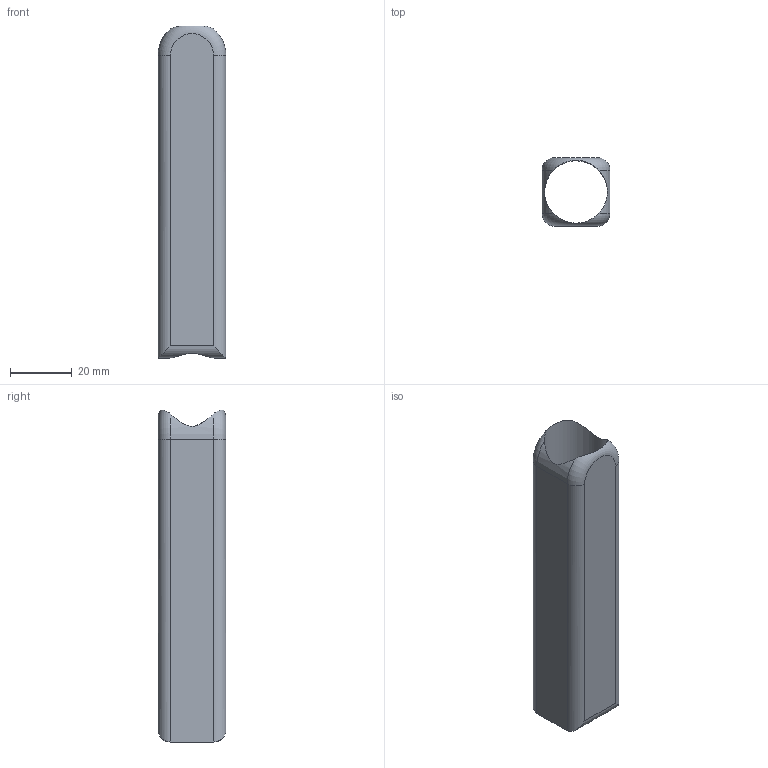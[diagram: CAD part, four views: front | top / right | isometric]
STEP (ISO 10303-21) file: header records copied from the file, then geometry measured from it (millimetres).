
FILE_DESCRIPTION(/* description */ (''),/* implementation_level */ '2;1');
FILE_NAME(/* name */ 'C:/Users/Owner/Desktop/K-CAD Songbird PM4 Centerfire/STEP/Barrels/Barrel Type 1/Barrel Type 1 .8 inch ID.step',/* time_stamp */ '2020-12-05T21:46:03-05:00',/* author */ (''),/* organization */ (''),/* preprocessor_version */ 'ST-DEVELOPER v18.1',/* originating_system */ 'Autodesk Translation Framework v9.3.0.1241',/* authorisation */ '');
FILE_SCHEMA (('AUTOMOTIVE_DESIGN { 1 0 10303 214 3 1 1 }'));
Length unit declared in the file: inch
Products named in the file (1): Barrel Type 1 .8 inch ID
Bounding box: 22 x 22 x 107.48 mm (x, y, z)
Volume: 15057 mm3; surface area: 15360.7 mm2
Topology: 1 solids, 1 shells, 17 faces, 43 edges, 26 vertices
Faces by surface type: cylinder 9, plane 6, torus 2
Full cylindrical faces by diameter (mm): 20.32 x1
Entity records: 645 total; most frequent: CARTESIAN_POINT 190, DIRECTION 89, ORIENTED_EDGE 86, EDGE_CURVE 43, AXIS2_PLACEMENT_3D 35, VERTEX_POINT 26, LINE 19, VECTOR 19
